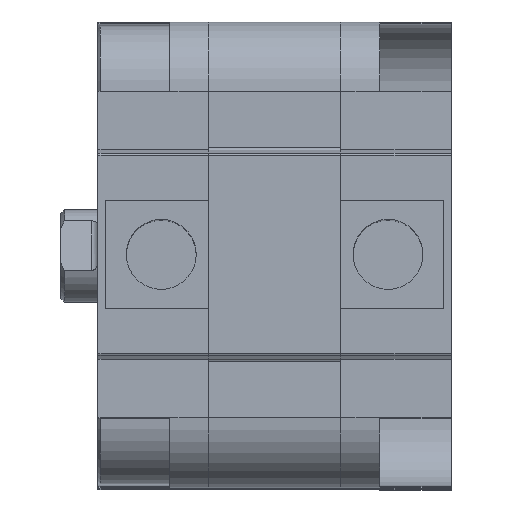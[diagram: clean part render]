
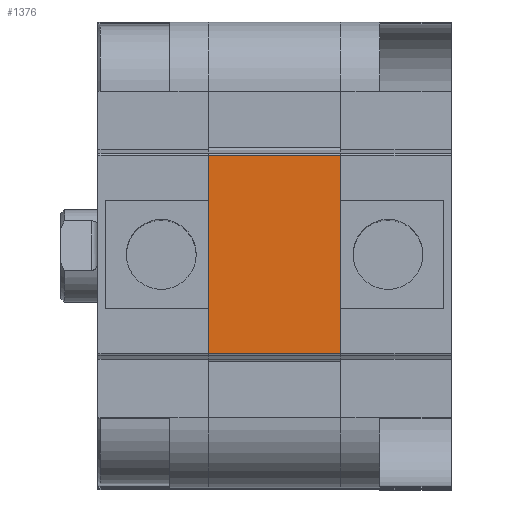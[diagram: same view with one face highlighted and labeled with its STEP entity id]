
A CAD part, front view. The second image highlights one B-rep face of the part: STEP entity #1376.
In plain terms, the highlighted planar face has unit normal (0, -1, 0.006) as drawn and (0, -1, 0) by its records, which use the part's own axes.
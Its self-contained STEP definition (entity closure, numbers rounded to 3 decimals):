
#958 = DIRECTION ( 'NONE',  ( 1., 0., 0. ) ) ;
#1376 = ADVANCED_FACE ( 'NONE', ( #27742 ), #21245, .T. ) ;
#2425 = VERTEX_POINT ( 'NONE', #21459 ) ;
#2456 = CARTESIAN_POINT ( 'NONE',  ( -12.754, -32.5, 8.5 ) ) ;
#4131 = ORIENTED_EDGE ( 'NONE', *, *, #18435, .T. ) ;
#4557 = VECTOR ( 'NONE', #11208, 1000. ) ;
#4751 = ORIENTED_EDGE ( 'NONE', *, *, #12828, .T. ) ;
#8789 = VECTOR ( 'NONE', #24558, 1000. ) ;
#11208 = DIRECTION ( 'NONE',  ( 1., 0., 0. ) ) ;
#11725 = EDGE_LOOP ( 'NONE', ( #26290, #4131, #4751, #14903 ) ) ;
#12593 = EDGE_CURVE ( 'NONE', #22756, #21229, #16508, .T. ) ;
#12599 = VERTEX_POINT ( 'NONE', #12639 ) ;
#12639 = CARTESIAN_POINT ( 'NONE',  ( 12.754, -32.5, 0. ) ) ;
#12828 = EDGE_CURVE ( 'NONE', #2425, #12599, #22240, .T. ) ;
#13992 = DIRECTION ( 'NONE',  ( 0., 0., -1. ) ) ;
#14903 = ORIENTED_EDGE ( 'NONE', *, *, #22273, .T. ) ;
#14936 = LINE ( 'NONE', #29056, #8789 ) ;
#15023 = CARTESIAN_POINT ( 'NONE',  ( 12.754, -32.5, 17. ) ) ;
#16508 = LINE ( 'NONE', #26436, #21884 ) ;
#18435 = EDGE_CURVE ( 'NONE', #22756, #2425, #20106, .T. ) ;
#20106 = LINE ( 'NONE', #2456, #24108 ) ;
#20651 = CARTESIAN_POINT ( 'NONE',  ( -12.754, -32.5, 17. ) ) ;
#21229 = VERTEX_POINT ( 'NONE', #15023 ) ;
#21245 = PLANE ( 'NONE',  #21882 ) ;
#21459 = CARTESIAN_POINT ( 'NONE',  ( -12.754, -32.5, 0. ) ) ;
#21577 = DIRECTION ( 'NONE',  ( 0., -1., 0. ) ) ;
#21618 = DIRECTION ( 'NONE',  ( 0., 0., -1. ) ) ;
#21882 = AXIS2_PLACEMENT_3D ( 'NONE', #20651, #21577, #21618 ) ;
#21884 = VECTOR ( 'NONE', #958, 1000. ) ;
#22240 = LINE ( 'NONE', #25029, #4557 ) ;
#22273 = EDGE_CURVE ( 'NONE', #12599, #21229, #14936, .T. ) ;
#22756 = VERTEX_POINT ( 'NONE', #28623 ) ;
#24108 = VECTOR ( 'NONE', #13992, 1000. ) ;
#24558 = DIRECTION ( 'NONE',  ( 0., 0., 1. ) ) ;
#25029 = CARTESIAN_POINT ( 'NONE',  ( -12.754, -32.5, 0. ) ) ;
#26290 = ORIENTED_EDGE ( 'NONE', *, *, #12593, .F. ) ;
#26436 = CARTESIAN_POINT ( 'NONE',  ( -30., -32.5, 17. ) ) ;
#27742 = FACE_OUTER_BOUND ( 'NONE', #11725, .T. ) ;
#28623 = CARTESIAN_POINT ( 'NONE',  ( -12.754, -32.5, 17. ) ) ;
#29056 = CARTESIAN_POINT ( 'NONE',  ( 12.754, -32.5, 8.5 ) ) ;
